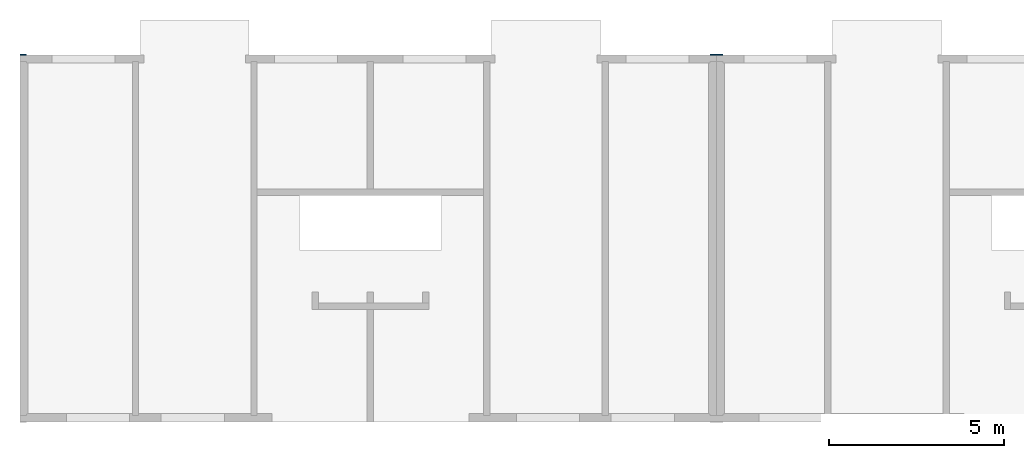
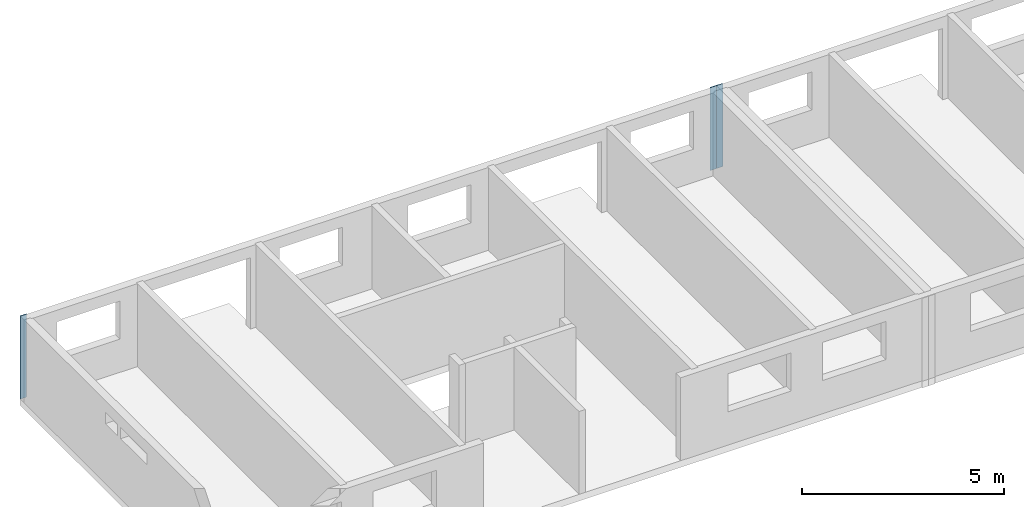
# One storey, part 6 of 9: 3 walls.
"""IFC2X3 building model written with IfcOpenShell, lengths in millimetres."""

import ifcopenshell
import ifcopenshell.guid

model = None  # the IFC model being written
_history = None  # IfcOwnerHistory: only IFC2X3 demands one
_inside = {}  # id of a spatial element -> (the spatial element, [elements in it])
_under = {}  # id of a project, library or spatial element -> (it, [spatial elements below it])
_declared = {}  # id of a project -> (the project, [libraries it declares])
_typed = {}  # id of a type object -> (the type object, [elements of that type])
_made_of = {}  # id of a material, layer set ... -> (it, [elements and type objects made of it])


def new_model(schema):
    """Start an empty IFC model of exactly this schema.

    Asked for "IFC4X3", IfcOpenShell would pick the latest addendum, in which some entities
    have other attributes; the version numbers below select the first issue.
    IFC2X3 requires an IfcOwnerHistory on every rooted entity: one is made here for all.
    """
    global model, _history
    if schema == "IFC4X3":
        model = ifcopenshell.file(schema_version=(4, 3, 0, 0))
    else:
        model = ifcopenshell.file(schema=schema)
    _inside.clear()
    _under.clear()
    _declared.clear()
    _typed.clear()
    _made_of.clear()
    _history = None
    if model.schema == "IFC2X3":
        org = make("IfcOrganization", Name="unknown")
        user = make(
            "IfcPersonAndOrganization",
            ThePerson=make("IfcPerson", FamilyName="unknown"),
            TheOrganization=org,
        )
        app = make(
            "IfcApplication",
            ApplicationDeveloper=org,
            Version="unknown",
            ApplicationFullName="unknown",
            ApplicationIdentifier="unknown",
        )
        _history = make(
            "IfcOwnerHistory",
            OwningUser=user,
            OwningApplication=app,
            ChangeAction="ADDED",
            CreationDate=0,
        )
    return model


def make(cls, **values):
    """One entity of the class cls with the attributes given. An attribute that is None is left unset."""
    return model.create_entity(
        cls, **{name: value for name, value in values.items() if value is not None}
    )


def entity(cls, *values):
    """Any entity or typed value of the class cls, its attributes in the order of the schema. None: left unset."""
    e = model.create_entity(cls)
    for i, value in enumerate(values):
        if value is not None:
            e[i] = value
    return e


def rooted(cls, **values):
    """An entity with a GlobalId (a new one), such as an element, a storey or a relation."""
    return make(cls, GlobalId=ifcopenshell.guid.new(), OwnerHistory=_history, **values)


def si_unit(unit_type, name, prefix=None):
    """IfcSIUnit, for example si_unit("LENGTHUNIT", "METRE", prefix="MILLI")."""
    return make("IfcSIUnit", UnitType=unit_type, Prefix=prefix, Name=name)


def converted_unit(unit_type, name, factor, base, dimensions=None, offset=None):
    """IfcConversionBasedUnit, such as the inch: factor (a typed value) times the base unit."""
    return make(
        "IfcConversionBasedUnit"
        if offset is None
        else "IfcConversionBasedUnitWithOffset",
        ConversionOffset=offset,
        Dimensions=None
        if dimensions is None
        else entity("IfcDimensionalExponents", *dimensions),
        UnitType=unit_type,
        Name=name,
        ConversionFactor=make(
            "IfcMeasureWithUnit", ValueComponent=factor, UnitComponent=base
        ),
    )


def assignment(units):
    """IfcUnitAssignment: the units of a project."""
    return None if units is None else make("IfcUnitAssignment", Units=units)


def point(xyz):
    """IfcCartesianPoint."""
    return None if xyz is None else make("IfcCartesianPoint", Coordinates=xyz)


def direction(xyz):
    """IfcDirection."""
    return None if xyz is None else make("IfcDirection", DirectionRatios=xyz)


def frame(location, z_axis=None, x_axis=None):
    """IfcAxis2Placement3D, a coordinate frame: its origin and axes. An axis left out is left unset."""
    return make(
        "IfcAxis2Placement3D",
        Location=point(location),
        Axis=direction(z_axis),
        RefDirection=direction(x_axis),
    )


def frame_2d(location, x_axis=None):
    """IfcAxis2Placement2D, a coordinate frame in the plane: its origin and x axis."""
    return make(
        "IfcAxis2Placement2D", Location=point(location), RefDirection=direction(x_axis)
    )


def origin():
    """The frame at (0, 0, 0) with its axes left unset."""
    return frame((0.0, 0.0, 0.0))


def place(relative_to, where):
    """IfcLocalPlacement: puts the frame where relative to a parent placement (None: the world)."""
    return make(
        "IfcLocalPlacement", PlacementRelTo=relative_to, RelativePlacement=where
    )


def context(
    kind, dimensions, precision=None, world=None, true_north=None, identifier=None
):
    """IfcGeometricRepresentationContext, for example the 3D "Model" context."""
    return make(
        "IfcGeometricRepresentationContext",
        ContextIdentifier=identifier,
        ContextType=kind,
        CoordinateSpaceDimension=dimensions,
        Precision=precision,
        WorldCoordinateSystem=world,
        TrueNorth=true_north,
    )


def subcontext(parent, identifier, kind, view, scale=None):
    """IfcGeometricRepresentationSubContext, for example "Body" below "Model"."""
    return make(
        "IfcGeometricRepresentationSubContext",
        ContextIdentifier=identifier,
        ContextType=kind,
        ParentContext=parent,
        TargetScale=scale,
        TargetView=view,
    )


def project(units=None, contexts=None):
    """IfcProject with its units and contexts."""
    return rooted(
        "IfcProject",
        Name="project",
        RepresentationContexts=contexts,
        UnitsInContext=assignment(units),
    )


def spatial(cls, under=None, at=None, **own):
    """A site, building, storey or space (cls), placed at a placement, below another one or the project."""
    s = rooted(cls, ObjectPlacement=at, **own)
    if under is not None:
        _under.setdefault(under.id(), (under, []))[1].append(s)
    return s


def profile(cls, at=None, kind="AREA", **sizes):
    """A parametric profile (cls). Its sizes go by their IFC names, for example OverallWidth=200.0."""
    return make(cls, ProfileType=kind, Position=at, **sizes)


def rectangle(**sizes):
    """IfcRectangleProfileDef."""
    return profile("IfcRectangleProfileDef", **sizes)


def extrude(swept, where, along, depth):
    """IfcExtrudedAreaSolid: the profile swept, set in the frame where, extruded along a direction by depth."""
    return make(
        "IfcExtrudedAreaSolid",
        SweptArea=swept,
        Position=where,
        ExtrudedDirection=direction(along),
        Depth=depth,
    )


def shape(context_of_items, identifier, shape_type, items):
    """IfcShapeRepresentation: the items that make up one representation, for example the "Body"."""
    return make(
        "IfcShapeRepresentation",
        ContextOfItems=context_of_items,
        RepresentationIdentifier=identifier,
        RepresentationType=shape_type,
        Items=items,
    )


def material(Name=None, Category=None):
    """IfcMaterial."""
    return make("IfcMaterial", Name=Name, Category=Category)


def layer(
    of_material, thickness, ventilated=None, Name=None, Category=None, Priority=None
):
    """IfcMaterialLayer: one layer of a wall or slab, of a material (None: an air gap)."""
    return make(
        "IfcMaterialLayer",
        Material=of_material,
        LayerThickness=thickness,
        IsVentilated=ventilated,
        Name=Name,
        Category=Category,
        Priority=Priority,
    )


def layer_set(layers, Name=None):
    """IfcMaterialLayerSet."""
    return make("IfcMaterialLayerSet", MaterialLayers=layers, LayerSetName=Name)


def layer_usage(for_layer_set, set_direction, sense, offset, extent=None):
    """IfcMaterialLayerSetUsage: how a layer set lies in its element."""
    return make(
        "IfcMaterialLayerSetUsage",
        ForLayerSet=for_layer_set,
        LayerSetDirection=set_direction,
        DirectionSense=sense,
        OffsetFromReferenceLine=offset,
        ReferenceExtent=extent,
    )


def made_of(thing, what):
    """Note that an element or type object is made of a material, layer set ...; save() writes the relation."""
    if what is not None:
        _made_of.setdefault(what.id(), (what, []))[1].append(thing)
    return thing


def element(
    cls,
    number,
    at=None,
    inside=None,
    cuts=None,
    type_object=None,
    material=None,
    context=None,
    identifier="Body",
    shape_type=None,
    held_by="IfcProductDefinitionShape",
    body=None,
    shapes=None,
    **own,
):
    """One element of the class cls, such as IfcWall. Its Tag is "e" and its number.

    at: its placement. inside: the storey or other place that contains it. cuts: it is an
    opening in that element (IfcRelVoidsElement). A single representation is given by context,
    identifier, shape_type and body (its items); several are given by shapes. held_by: the class
    of the entity that holds the representations. save() writes the other relations.
    """
    e = rooted(cls, Tag="e%d" % number, ObjectPlacement=at, **own)
    if body is not None:
        shapes = [shape(context, identifier, shape_type, body)]
    if shapes is not None:
        e.Representation = make(held_by, Representations=shapes)
    if inside is not None:
        _inside.setdefault(inside.id(), (inside, []))[1].append(e)
    if cuts is not None:
        rooted(
            "IfcRelVoidsElement", RelatingBuildingElement=cuts, RelatedOpeningElement=e
        )
    if type_object is not None:
        _typed.setdefault(type_object.id(), (type_object, []))[1].append(e)
    return made_of(e, material)


def aggregate(whole, parts):
    """IfcRelAggregates: a whole, such as a stair, and the parts it consists of."""
    return rooted("IfcRelAggregates", RelatingObject=whole, RelatedObjects=parts)


def save(model, path):
    """Write the relations noted so far, then the file.

    IfcRelAggregates (storeys below a building ...), IfcRelContainedInSpatialStructure (elements
    in a storey), IfcRelDefinesByType, IfcRelAssociatesMaterial and IfcRelDeclares: one each for
    every whole, place, type object, material and project.
    """
    for whole, parts in _under.values():
        aggregate(whole, parts)
    for where, things in _inside.values():
        rooted(
            "IfcRelContainedInSpatialStructure",
            RelatedElements=things,
            RelatingStructure=where,
        )
    for kind, things in _typed.values():
        rooted("IfcRelDefinesByType", RelatedObjects=things, RelatingType=kind)
    for what, things in _made_of.values():
        rooted("IfcRelAssociatesMaterial", RelatedObjects=things, RelatingMaterial=what)
    for by, libraries in _declared.values():
        rooted("IfcRelDeclares", RelatingContext=by, RelatedDefinitions=libraries)
    model.write(path)


model = new_model("IFC2X3")

# Units and contexts
model_context = context("Model", 3, precision=1e-05, world=origin())
plan_context = context("Plan", 3, precision=1e-05, world=origin())
body_context = subcontext(model_context, "Body", "Model", "MODEL_VIEW")
ifc_project = project(units=[si_unit("LENGTHUNIT", "METRE", prefix="MILLI"), converted_unit("PLANEANGLEUNIT", "DEGREE", entity("IfcPlaneAngleMeasure", 0.0174532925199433), si_unit("PLANEANGLEUNIT", "RADIAN"), dimensions=[0, 0, 0, 0, 0, 0, 0]), si_unit("AREAUNIT", "SQUARE_METRE"), si_unit("VOLUMEUNIT", "CUBIC_METRE")], contexts=[model_context, plan_context])

# Building, storey
building_placement = place(None, origin())
building = spatial("IfcBuilding", under=ifc_project, at=building_placement, Name="Bâtiment", CompositionType="ELEMENT")
storey_placement = place(building_placement, frame((0.0, 0.0, 5400.0), z_axis=(0.0, 0.0, 1.0), x_axis=(1.0, 0.0, 0.0)))
storey = spatial("IfcBuildingStorey", under=building, at=storey_placement, Name="r+2", CompositionType="ELEMENT", Elevation=5400.0)

# Walls
ifc_material_1 = material(Name="moellons")
ifc_layer_1 = layer(ifc_material_1, 19.99999999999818)
ifc_layer_set_1 = layer_set([ifc_layer_1])
ifc_layer_usage_1 = layer_usage(ifc_layer_set_1, "AXIS2", "POSITIVE", 0.0)
wall_1_placement = place(storey_placement, frame((-3.636754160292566e-12, 10490.07776548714, 0.0), z_axis=(0.0, 0.0, 1.0), x_axis=(1.0, 0.0, 0.0)))
element("IfcWallStandardCase", 1, at=wall_1_placement, inside=storey, material=ifc_layer_usage_1, context=body_context, shape_type="SweptSolid", body=[
    extrude(rectangle(XDim=180.0, YDim=19.99999999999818, at=frame_2d((90.0, 9.99999999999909), x_axis=(1.0, 0.0))), frame((-1.2246467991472e-15, -19.99999999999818, 0.0), z_axis=(0.0, 0.0, 1.0), x_axis=(1.0, 0.0, 0.0)), (0.0, 0.0, 1.0), 2500.0),
])
ifc_material_2 = material(Name="moellons")
ifc_layer_2 = layer(ifc_material_2, 20.0)
ifc_layer_set_2 = layer_set([ifc_layer_2])
ifc_layer_usage_2 = layer_usage(ifc_layer_set_2, "AXIS2", "POSITIVE", 0.0)
wall_2_placement = place(storey_placement, frame((19849.99999999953, 10490.07776548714, 0.0), z_axis=(0.0, 0.0, 1.0), x_axis=(1.0, 0.0, 0.0)))
element("IfcWallStandardCase", 2, at=wall_2_placement, inside=storey, material=ifc_layer_usage_2, context=body_context, shape_type="SweptSolid", body=[
    extrude(rectangle(XDim=180.0, YDim=20.0, at=frame_2d((90.0, 10.0), x_axis=(1.0, 0.0))), frame((0.0, -20.0, 0.0), z_axis=(0.0, 0.0, 1.0), x_axis=(1.0, 0.0, 0.0)), (0.0, 0.0, 1.0), 2500.0),
])
ifc_material_3 = material(Name="moellons")
ifc_layer_3 = layer(ifc_material_3, 20.00000000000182)
ifc_layer_set_3 = layer_set([ifc_layer_3])
ifc_layer_usage_3 = layer_usage(ifc_layer_set_3, "AXIS2", "POSITIVE", 0.0)
wall_3_placement = place(storey_placement, frame((19849.99999999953, 10470.07776548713, 0.0), z_axis=(0.0, 0.0, 1.0), x_axis=(-1.0, 0.0, 0.0)))
element("IfcWallStandardCase", 3, at=wall_3_placement, inside=storey, material=ifc_layer_usage_3, context=body_context, shape_type="SweptSolid", body=[
    extrude(rectangle(XDim=180.0, YDim=20.00000000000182, at=frame_2d((90.0, 10.00000000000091), x_axis=(1.0, 0.0))), frame((0.0, -20.00000000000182, 0.0), z_axis=(0.0, 0.0, 1.0), x_axis=(1.0, 0.0, 0.0)), (0.0, 0.0, 1.0), 2500.0),
])

save(model, "model.ifc")
